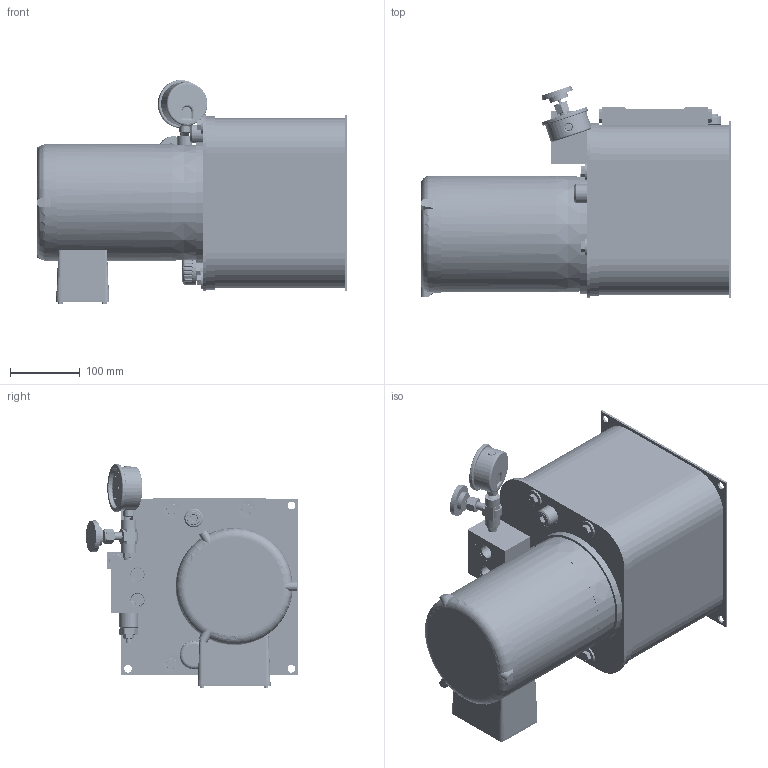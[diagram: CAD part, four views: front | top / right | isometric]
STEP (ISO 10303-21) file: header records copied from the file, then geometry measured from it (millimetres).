
FILE_DESCRIPTION (( 'STEP AP214' ), '1' );
FILE_NAME ('T2V-05-X-NN--034.STEP', '2021-08-25T14:25:44', ( '' ), ( '' ), 'SwSTEP 2.0', 'SolidWorks 2020', '' );
FILE_SCHEMA (( 'AUTOMOTIVE_DESIGN' ));
Length unit declared in the file: inch
Products named in the file (1): T2V-05-X-NN--034
Bounding box: 446.01 x 304.95 x 321.86 mm (x, y, z)
Surface area: 1230520.9 mm2 (no closed solid volume)
Topology: 0 solids, 60 shells, 4888 faces, 12624 edges, 7970 vertices
Faces by surface type: plane 1790, cylinder 1403, cone 645, bspline 541, torus 429, sphere 80
Entity records: 301295 total; most frequent: CARTESIAN_POINT 130732, ORIENTED_EDGE 25014, DIRECTION 17765, EDGE_CURVE 12526, VERTEX_POINT 7958, AXIS2_PLACEMENT_3D 6360, EDGE_LOOP 5222, VECTOR 5045
